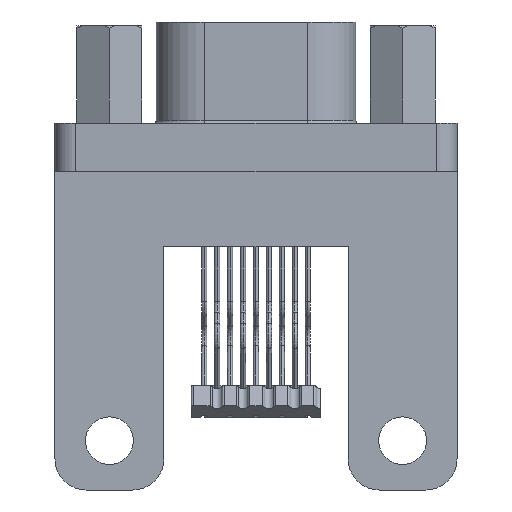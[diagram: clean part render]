
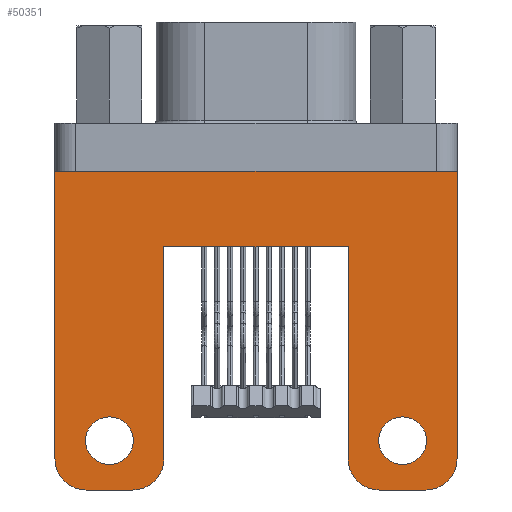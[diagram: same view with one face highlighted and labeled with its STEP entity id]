
A CAD part, front view. The second image highlights one B-rep face of the part: STEP entity #50351.
In plain terms, the highlighted planar face has unit normal (0, -1, 0).
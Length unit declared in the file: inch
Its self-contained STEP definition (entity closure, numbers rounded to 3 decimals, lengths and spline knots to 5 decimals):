
#894 = CARTESIAN_POINT ( 'NONE',  ( 0.2825, -0.17, -0.572 ) ) ;
#1402 = CARTESIAN_POINT ( 'NONE',  ( 0.19, -0.17, -0.198 ) ) ;
#1428 = CARTESIAN_POINT ( 'NONE',  ( -0.1775, -0.17, -0.667 ) ) ;
#1474 = DIRECTION ( 'NONE',  ( -1., 0., 0. ) ) ;
#1546 = VERTEX_POINT ( 'NONE', #11332 ) ;
#1644 = LINE ( 'NONE', #50397, #40908 ) ;
#1926 = DIRECTION ( 'NONE',  ( 0., 0., 1. ) ) ;
#2288 = DIRECTION ( 'NONE',  ( 0., 0., 1. ) ) ;
#2584 = CARTESIAN_POINT ( 'NONE',  ( 0.1775, -0.17, -0.667 ) ) ;
#3155 = AXIS2_PLACEMENT_3D ( 'NONE', #8403, #52224, #4342 ) ;
#3391 = DIRECTION ( 'NONE',  ( 1., 0., 0. ) ) ;
#3660 = DIRECTION ( 'NONE',  ( 0., 1., 0. ) ) ;
#4015 = CIRCLE ( 'NONE', #35587, 0.046 ) ;
#4342 = DIRECTION ( 'NONE',  ( 0., 0., -1. ) ) ;
#5040 = CIRCLE ( 'NONE', #3155, 0.06 ) ;
#5295 = EDGE_CURVE ( 'NONE', #43983, #1546, #1644, .T. ) ;
#5579 = VECTOR ( 'NONE', #11251, 39.37008 ) ;
#5764 = VERTEX_POINT ( 'NONE', #57191 ) ;
#6139 = EDGE_LOOP ( 'NONE', ( #10083, #54840 ) ) ;
#6744 = AXIS2_PLACEMENT_3D ( 'NONE', #9725, #45144, #49161 ) ;
#7122 = DIRECTION ( 'NONE',  ( 0., 0., -1. ) ) ;
#7756 = LINE ( 'NONE', #25449, #45532 ) ;
#8403 = CARTESIAN_POINT ( 'NONE',  ( 0.2375, -0.17, -0.607 ) ) ;
#8474 = VECTOR ( 'NONE', #1926, 39.37008 ) ;
#8533 = EDGE_CURVE ( 'NONE', #51295, #36789, #4015, .T. ) ;
#9725 = CARTESIAN_POINT ( 'NONE',  ( 0.1775, -0.17, -0.667 ) ) ;
#10083 = ORIENTED_EDGE ( 'NONE', *, *, #37544, .T. ) ;
#10136 = LINE ( 'NONE', #1402, #42355 ) ;
#10161 = EDGE_CURVE ( 'NONE', #53794, #11038, #10136, .T. ) ;
#10800 = EDGE_CURVE ( 'NONE', #15994, #55181, #38726, .T. ) ;
#11038 = VERTEX_POINT ( 'NONE', #14113 ) ;
#11251 = DIRECTION ( 'NONE',  ( -1., 0., 0. ) ) ;
#11332 = CARTESIAN_POINT ( 'NONE',  ( 0.3875, -0.17, -0.053 ) ) ;
#11517 = LINE ( 'NONE', #54749, #8474 ) ;
#12132 = CARTESIAN_POINT ( 'NONE',  ( -0.2825, -0.17, -0.572 ) ) ;
#12135 = CIRCLE ( 'NONE', #24167, 0.046 ) ;
#12275 = CARTESIAN_POINT ( 'NONE',  ( -0.3285, -0.17, -0.572 ) ) ;
#12432 = ORIENTED_EDGE ( 'NONE', *, *, #57033, .F. ) ;
#12994 = DIRECTION ( 'NONE',  ( -1., 0., 0. ) ) ;
#13463 = EDGE_LOOP ( 'NONE', ( #15705, #15743, #12432, #35781, #51550, #45988, #49174, #35484, #45700, #49544, #13627, #37110 ) ) ;
#13627 = ORIENTED_EDGE ( 'NONE', *, *, #5295, .T. ) ;
#14113 = CARTESIAN_POINT ( 'NONE',  ( -0.1775, -0.17, -0.198 ) ) ;
#14178 = CARTESIAN_POINT ( 'NONE',  ( 0.3285, -0.17, -0.572 ) ) ;
#14402 = CARTESIAN_POINT ( 'NONE',  ( 0.2375, -0.17, -0.667 ) ) ;
#15161 = DIRECTION ( 'NONE',  ( 0., 1., 0. ) ) ;
#15357 = CARTESIAN_POINT ( 'NONE',  ( -0.1775, -0.17, -0.667 ) ) ;
#15705 = ORIENTED_EDGE ( 'NONE', *, *, #48383, .F. ) ;
#15743 = ORIENTED_EDGE ( 'NONE', *, *, #53791, .T. ) ;
#15994 = VERTEX_POINT ( 'NONE', #21645 ) ;
#16014 = VERTEX_POINT ( 'NONE', #27986 ) ;
#16217 = CARTESIAN_POINT ( 'NONE',  ( 0.2825, -0.17, -0.572 ) ) ;
#16420 = AXIS2_PLACEMENT_3D ( 'NONE', #894, #15161, #1474 ) ;
#16689 = DIRECTION ( 'NONE',  ( -1., 0., 0. ) ) ;
#16945 = ORIENTED_EDGE ( 'NONE', *, *, #8533, .T. ) ;
#18020 = LINE ( 'NONE', #1428, #53018 ) ;
#18229 = CARTESIAN_POINT ( 'NONE',  ( -0.2375, -0.17, -0.607 ) ) ;
#18291 = DIRECTION ( 'NONE',  ( -1., 0., 0. ) ) ;
#18728 = PLANE ( 'NONE',  #6744 ) ;
#19386 = DIRECTION ( 'NONE',  ( 0., 0., 1. ) ) ;
#20124 = CARTESIAN_POINT ( 'NONE',  ( -0.3275, -0.17, -0.607 ) ) ;
#20314 = VECTOR ( 'NONE', #43248, 39.37008 ) ;
#21645 = CARTESIAN_POINT ( 'NONE',  ( -0.2375, -0.17, -0.667 ) ) ;
#21695 = CARTESIAN_POINT ( 'NONE',  ( 0.3275, -0.17, -0.667 ) ) ;
#24133 = VERTEX_POINT ( 'NONE', #14402 ) ;
#24167 = AXIS2_PLACEMENT_3D ( 'NONE', #16217, #3660, #25423 ) ;
#24169 = DIRECTION ( 'NONE',  ( 0., -1., 0. ) ) ;
#25423 = DIRECTION ( 'NONE',  ( -1., 0., 0. ) ) ;
#25449 = CARTESIAN_POINT ( 'NONE',  ( 0.1775, -0.17, -0.667 ) ) ;
#25462 = CIRCLE ( 'NONE', #25500, 0.06 ) ;
#25500 = AXIS2_PLACEMENT_3D ( 'NONE', #20124, #24169, #49999 ) ;
#26885 = VERTEX_POINT ( 'NONE', #34748 ) ;
#27418 = EDGE_CURVE ( 'NONE', #50432, #5764, #12135, .T. ) ;
#27523 = AXIS2_PLACEMENT_3D ( 'NONE', #34338, #55294, #16689 ) ;
#27758 = DIRECTION ( 'NONE',  ( 0., 0., -1. ) ) ;
#27986 = CARTESIAN_POINT ( 'NONE',  ( -0.3875, -0.17, -0.607 ) ) ;
#28417 = CIRCLE ( 'NONE', #41447, 0.06 ) ;
#31696 = VERTEX_POINT ( 'NONE', #38746 ) ;
#33131 = CARTESIAN_POINT ( 'NONE',  ( -0.2365, -0.17, -0.572 ) ) ;
#33290 = LINE ( 'NONE', #15357, #5579 ) ;
#33432 = CARTESIAN_POINT ( 'NONE',  ( -0.1775, -0.17, -0.607 ) ) ;
#33951 = LINE ( 'NONE', #51623, #20314 ) ;
#34063 = AXIS2_PLACEMENT_3D ( 'NONE', #18229, #35947, #27758 ) ;
#34338 = CARTESIAN_POINT ( 'NONE',  ( -0.2825, -0.17, -0.572 ) ) ;
#34748 = CARTESIAN_POINT ( 'NONE',  ( -0.3275, -0.17, -0.667 ) ) ;
#34887 = EDGE_CURVE ( 'NONE', #37166, #43983, #28417, .T. ) ;
#35484 = ORIENTED_EDGE ( 'NONE', *, *, #51022, .T. ) ;
#35587 = AXIS2_PLACEMENT_3D ( 'NONE', #12132, #43764, #12994 ) ;
#35781 = ORIENTED_EDGE ( 'NONE', *, *, #10800, .T. ) ;
#35861 = FACE_BOUND ( 'NONE', #6139, .T. ) ;
#35947 = DIRECTION ( 'NONE',  ( 0., -1., 0. ) ) ;
#36733 = FACE_OUTER_BOUND ( 'NONE', #13463, .T. ) ;
#36789 = VERTEX_POINT ( 'NONE', #33131 ) ;
#36809 = CIRCLE ( 'NONE', #16420, 0.046 ) ;
#37110 = ORIENTED_EDGE ( 'NONE', *, *, #56147, .F. ) ;
#37166 = VERTEX_POINT ( 'NONE', #21695 ) ;
#37544 = EDGE_CURVE ( 'NONE', #5764, #50432, #36809, .T. ) ;
#38726 = CIRCLE ( 'NONE', #34063, 0.06 ) ;
#38746 = CARTESIAN_POINT ( 'NONE',  ( 0.1775, -0.17, -0.607 ) ) ;
#39072 = DIRECTION ( 'NONE',  ( 0., -1., 0. ) ) ;
#40391 = DIRECTION ( 'NONE',  ( 0., 0., 1. ) ) ;
#40503 = EDGE_LOOP ( 'NONE', ( #16945, #50221 ) ) ;
#40908 = VECTOR ( 'NONE', #19386, 39.37008 ) ;
#41447 = AXIS2_PLACEMENT_3D ( 'NONE', #47739, #39072, #7122 ) ;
#42355 = VECTOR ( 'NONE', #18291, 39.37008 ) ;
#43248 = DIRECTION ( 'NONE',  ( 1., 0., 0. ) ) ;
#43764 = DIRECTION ( 'NONE',  ( 0., 1., 0. ) ) ;
#43983 = VERTEX_POINT ( 'NONE', #51944 ) ;
#44859 = FACE_BOUND ( 'NONE', #40503, .T. ) ;
#45144 = DIRECTION ( 'NONE',  ( 0., -1., 0. ) ) ;
#45532 = VECTOR ( 'NONE', #3391, 39.37008 ) ;
#45700 = ORIENTED_EDGE ( 'NONE', *, *, #48872, .T. ) ;
#45988 = ORIENTED_EDGE ( 'NONE', *, *, #10161, .F. ) ;
#46129 = CIRCLE ( 'NONE', #27523, 0.046 ) ;
#47739 = CARTESIAN_POINT ( 'NONE',  ( 0.3275, -0.17, -0.607 ) ) ;
#48131 = EDGE_CURVE ( 'NONE', #31696, #53794, #54822, .T. ) ;
#48273 = CARTESIAN_POINT ( 'NONE',  ( -0.3875, -0.17, -0.053 ) ) ;
#48296 = VECTOR ( 'NONE', #2288, 39.37008 ) ;
#48383 = EDGE_CURVE ( 'NONE', #16014, #55967, #11517, .T. ) ;
#48872 = EDGE_CURVE ( 'NONE', #24133, #37166, #7756, .T. ) ;
#49161 = DIRECTION ( 'NONE',  ( 0., 0., -1. ) ) ;
#49174 = ORIENTED_EDGE ( 'NONE', *, *, #48131, .F. ) ;
#49544 = ORIENTED_EDGE ( 'NONE', *, *, #34887, .T. ) ;
#49608 = EDGE_CURVE ( 'NONE', #55181, #11038, #18020, .T. ) ;
#49999 = DIRECTION ( 'NONE',  ( 0., 0., -1. ) ) ;
#50221 = ORIENTED_EDGE ( 'NONE', *, *, #54863, .T. ) ;
#50351 = ADVANCED_FACE ( 'NONE', ( #36733, #35861, #44859 ), #18728, .T. ) ;
#50397 = CARTESIAN_POINT ( 'NONE',  ( 0.3875, -0.17, -0.667 ) ) ;
#50432 = VERTEX_POINT ( 'NONE', #14178 ) ;
#50558 = CARTESIAN_POINT ( 'NONE',  ( 0.1775, -0.17, -0.198 ) ) ;
#51022 = EDGE_CURVE ( 'NONE', #31696, #24133, #5040, .T. ) ;
#51295 = VERTEX_POINT ( 'NONE', #12275 ) ;
#51550 = ORIENTED_EDGE ( 'NONE', *, *, #49608, .T. ) ;
#51623 = CARTESIAN_POINT ( 'NONE',  ( 0.1775, -0.17, -0.053 ) ) ;
#51944 = CARTESIAN_POINT ( 'NONE',  ( 0.3875, -0.17, -0.607 ) ) ;
#52224 = DIRECTION ( 'NONE',  ( 0., -1., 0. ) ) ;
#53018 = VECTOR ( 'NONE', #40391, 39.37008 ) ;
#53791 = EDGE_CURVE ( 'NONE', #16014, #26885, #25462, .T. ) ;
#53794 = VERTEX_POINT ( 'NONE', #50558 ) ;
#54749 = CARTESIAN_POINT ( 'NONE',  ( -0.3875, -0.17, -0.667 ) ) ;
#54822 = LINE ( 'NONE', #2584, #48296 ) ;
#54840 = ORIENTED_EDGE ( 'NONE', *, *, #27418, .T. ) ;
#54863 = EDGE_CURVE ( 'NONE', #36789, #51295, #46129, .T. ) ;
#55181 = VERTEX_POINT ( 'NONE', #33432 ) ;
#55294 = DIRECTION ( 'NONE',  ( 0., 1., 0. ) ) ;
#55967 = VERTEX_POINT ( 'NONE', #48273 ) ;
#56147 = EDGE_CURVE ( 'NONE', #55967, #1546, #33951, .T. ) ;
#57033 = EDGE_CURVE ( 'NONE', #15994, #26885, #33290, .T. ) ;
#57191 = CARTESIAN_POINT ( 'NONE',  ( 0.2365, -0.17, -0.572 ) ) ;
